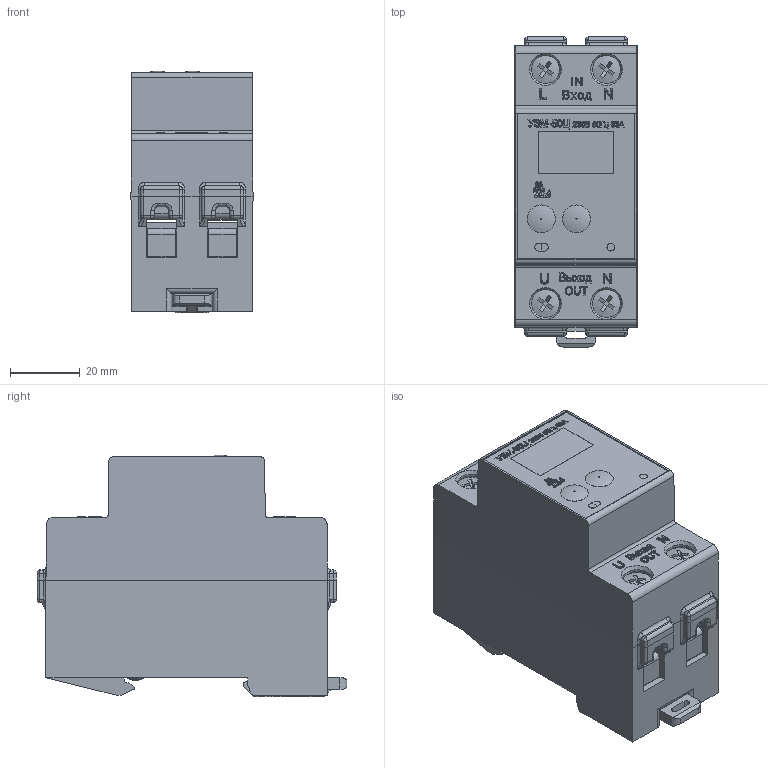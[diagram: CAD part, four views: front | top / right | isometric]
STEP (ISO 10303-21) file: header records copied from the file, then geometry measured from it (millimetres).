
FILE_DESCRIPTION(('STEP AP242'), '1');
FILE_NAME('ﾑ碚濱ﾓﾇﾌ_50ﾖ', '', ('UNSPECIFIED'), ('UNSPECIFIED'), 'C3D Converter', 'C3D Toolkit', '');
FILE_SCHEMA(('AP242_MANAGED_MODEL_BASED_3D_ENGINEERING_MIM_LF { 1 0 10303 442 1 1 4 }'));
Length unit declared in the file: millimetre
Products named in the file (15): ___UZM80__ASM_v01_SimpleModel; UZM-80_bottom_v01_Џｮ гｬｮｫзｭЁо; UZM-80_top_v01_Џｮ гｬｮｫзｭЁо; UZM-80_lock_v0_Џｮ гｬｮｫзｭЁо; 77500219_build20150420; UZM-80_Terminal_Cage_v0; Screw_Headtype_=[)_+_(configurable)_M6_L15_Head10x3.5
Assembly tree (18 placements, depth 3):
  ___UZM80__ASM_v01_SimpleModel
    UZM-80_bottom_v01_Џｮ гｬｮｫзｭЁо
    UZM-80_top_v01_Џｮ гｬｮｫзｭЁо
    UZM-80_lock_v0_Џｮ гｬｮｫзｭЁо
    (unnamed)  x4
      77500219_build20150420
      UZM-80_Terminal_Cage_v0
      Screw_Headtype_=[)_+_(configurable)_M6_L15_Head10x3.5
    (unnamed)
    (unnamed)
    (unnamed)
    (unnamed)
    (unnamed)
    (unnamed)
    (unnamed)  x2
Bounding box: 35 x 88.85 x 69.25 mm (x, y, z)
Volume: 46616.4 mm3; surface area: 62734.4 mm2
Topology: 43 solids, 43 shells, 3883 faces, 10792 edges, 7002 vertices
Faces by surface type: plane 2861, cylinder 444, extrusion 277, bspline 180, cone 91, torus 18, sphere 12
Full cylindrical faces by diameter (mm): 2.2 x2, 5 x8, 8 x8, 10 x4
Entity records: 163207 total; most frequent: CARTESIAN_POINT 48370, ORIENTED_EDGE 19446, DIRECTION 15042, EDGE_CURVE 9723, VECTOR 8140, LINE 7863, VERTEX_POINT 6371, EDGE_LOOP 3614
